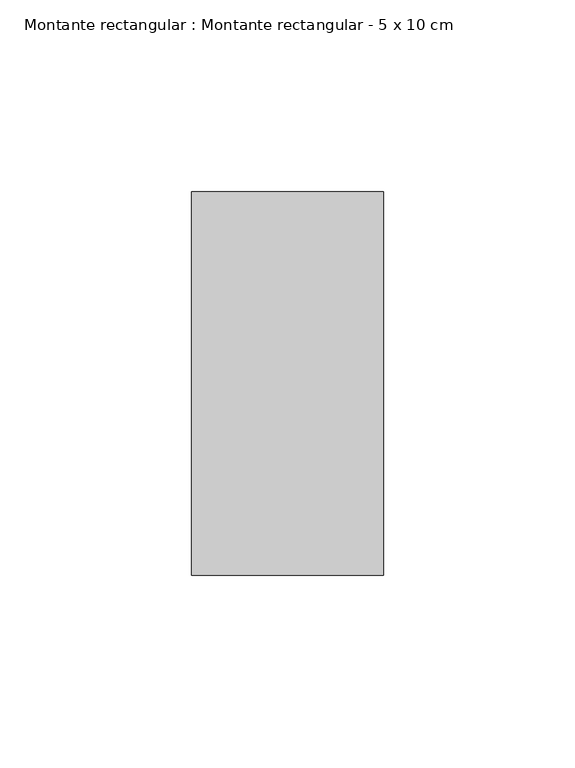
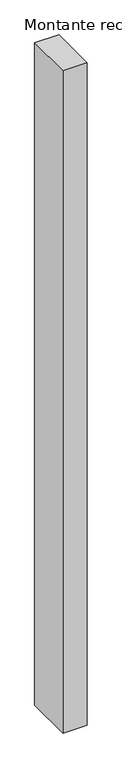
"""IFC4 building model written with IfcOpenShell, lengths in millimetres: member geometry, Montante rectangular : Montante rectangular - 5 x 10 cm."""

from ifc_helpers import new_model, si_unit, frame, origin, place, context, project, spatial, polyline, outline, extrude, source, transform, mapped, element, save


def montante_rectangular_montante_rectangular_5_x_10_cm_268e2d2b(model_context):
    return source(origin(), model_context, "Body", "SweptSolid", [
        extrude(outline(polyline([(25.0, 50.0), (25.0, -50.0), (-25.0, -50.0), (-25.0, 50.0), (25.0, 50.0)])), frame((0.0, 0.0, -1435.0), z_axis=(0.0, 0.0, 1.0), x_axis=(1.0, 0.0, 0.0)), (0.0, 0.0, 1.0), 1435.0),
    ])


if __name__ == "__main__":
    model = new_model("IFC4")
    model_context = context("Model", 3, world=origin())
    ifc_project = project(units=[si_unit("LENGTHUNIT", "METRE", prefix="MILLI")], contexts=[model_context])
    site = spatial("IfcSite", under=ifc_project)
    building = spatial("IfcBuilding", under=site)
    placement = place(None, origin())
    montante_rectangular_montante_rectangular_5_x_10_cm_shape = montante_rectangular_montante_rectangular_5_x_10_cm_268e2d2b(model_context)
    element("IfcMember", 1, ObjectType="Montante rectangular : Montante rectangular - 5 x 10 cm", at=placement, inside=building, context=model_context, shape_type="MappedRepresentation", body=[
        mapped(montante_rectangular_montante_rectangular_5_x_10_cm_shape, transform((0.0, 0.0, 0.0), x_axis=(1.0, 0.0, 0.0), y_axis=(0.0, 1.0, 0.0), z_axis=(0.0, 0.0, 1.0))),
    ])
    save(model, "model.ifc")
